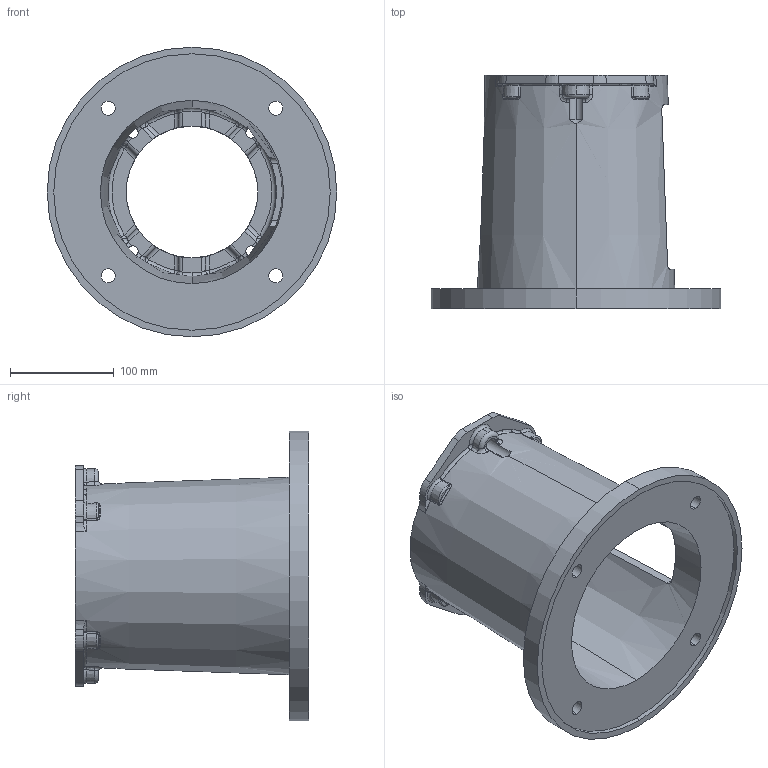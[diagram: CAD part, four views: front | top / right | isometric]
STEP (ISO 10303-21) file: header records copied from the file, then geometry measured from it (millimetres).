
FILE_DESCRIPTION (( 'STEP AP203' ), '1' );
FILE_NAME ('M284862C.STEP', '2007-12-21T21:06:30', ( 'Chris McCoy' ), ( 'Magnaloy Coupling Co' ), 'SwSTEP 2.0', 'SolidWorks 2007', '' );
FILE_SCHEMA (( 'CONFIG_CONTROL_DESIGN' ));
Length unit declared in the file: inch
Products named in the file (1): M284862C
Bounding box: 279.4 x 225.3 x 279.4 mm (x, y, z)
Volume: 1450549.8 mm3; surface area: 344783.7 mm2
Topology: 1 solids, 1 shells, 321 faces, 855 edges, 512 vertices
Faces by surface type: cylinder 86, torus 76, bspline 64, plane 50, sphere 24, cone 21
Entity records: 14138 total; most frequent: CARTESIAN_POINT 6743, ORIENTED_EDGE 1670, DIRECTION 1435, EDGE_CURVE 835, AXIS2_PLACEMENT_3D 642, VERTEX_POINT 512, CIRCLE 384, EDGE_LOOP 341
